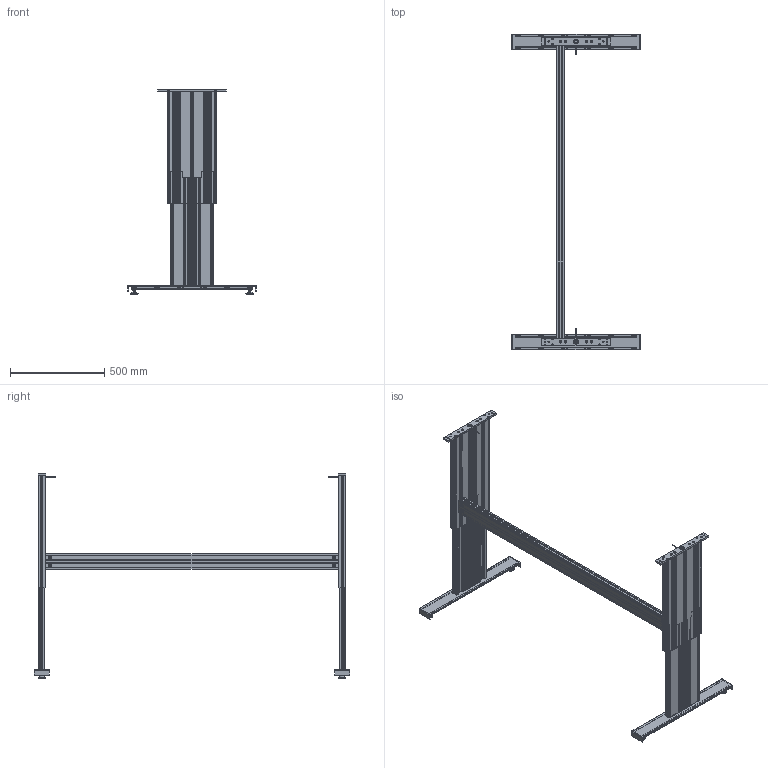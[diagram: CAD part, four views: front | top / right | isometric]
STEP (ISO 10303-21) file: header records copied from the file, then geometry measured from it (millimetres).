
FILE_DESCRIPTION(/* description */ ('Unknown'),/* implementation_level */ '2;1');
FILE_NAME(/* name */ '108.00433 Untergestell TT-2 1840 1590_ausgefahren',/* time_stamp */ '2017-11-24T16:09:04+01:00',/* author */ ('Unknown'),/* organization */ ('Unknown'),/* preprocessor_version */ 'ST-DEVELOPER v16.7',/* originating_system */ 'DEX',/* authorisation */ $);
FILE_SCHEMA (('AUTOMOTIVE_DESIGN {1 0 10303 214 3 1 1}'));
Products named in the file (30): 108.00433; 106.00385_oa_0; 119.00201; 119.00152; 142.00188; 142.00166; 142.00031; 126.00102; 109.00025_oa_1; 115.00008_oa_2; 125.00063; 142.00021; 125.00021; 113.00002_70mm; 106.00385_oa_3; 109.00025_oa_4; 115.00008_oa_5; 115.00094; 119.00174; 142.00207; 127.00515; 127.00520; 127.00556; 127.00557; 127.00520_461_469_Kehlnaht 1_oa_6; 113.00095; 113.00099; 113.00096; 113.00097; 113.00098
Assembly tree (52 placements, depth 5):
  108.00433
    106.00385_oa_0
      119.00201
      119.00152
      142.00188  x2
      142.00166  x4
      142.00031
      126.00102
      109.00025_oa_1
        115.00008_oa_2
        125.00063
        142.00021
        125.00021
      113.00002_70mm
    106.00385_oa_3
      119.00201
      119.00152
      142.00188  x2
      142.00166  x4
      142.00031
      126.00102
      109.00025_oa_4
        115.00008_oa_5
        125.00063
        142.00021
        125.00021
      113.00002_70mm
    115.00094
      119.00174
      142.00207  x4
    127.00515  x2
      127.00520
        127.00556
        127.00557
        127.00520_461_469_Kehlnaht 1_oa_6
      113.00095
        113.00099
        113.00096
          113.00097
          113.00098
Bounding box: 680 x 1670 x 1083.5 mm (x, y, z)
Volume: 7888514.7 mm3; surface area: 5640972 mm2
Topology: 73 solids, 81 shells, 4884 faces, 13898 edges, 9236 vertices
Faces by surface type: plane 3036, cylinder 1548, cone 194, torus 72, bspline 24, sphere 10
Full cylindrical faces by diameter (mm): 1.8 x4, 2.2 x2, 2.99 x2, 3.242 x4, 3.5 x2, 4 x6, 4.1 x2, 4.2 x2, 5 x12, 5.5 x8, 6.6 x8, 6.647 x16, 6.917 x4, 7.5 x4, 8 x16, 8.376 x6, 8.5 x20, 8.7 x8, 10 x8, 11.3 x8, 12 x4, 12.5 x10, 13 x4, 13.5 x6, 13.7 x2, 14.4 x2, 17.9 x4, 18 x16, 25 x10, 27.2 x4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
Entity records: 85317 total; most frequent: CARTESIAN_POINT 14590, ORIENTED_EDGE 13064, DIRECTION 12703, EDGE_CURVE 6532, LINE 4481, VECTOR 4481, VERTEX_POINT 4423, AXIS2_PLACEMENT_3D 4111
